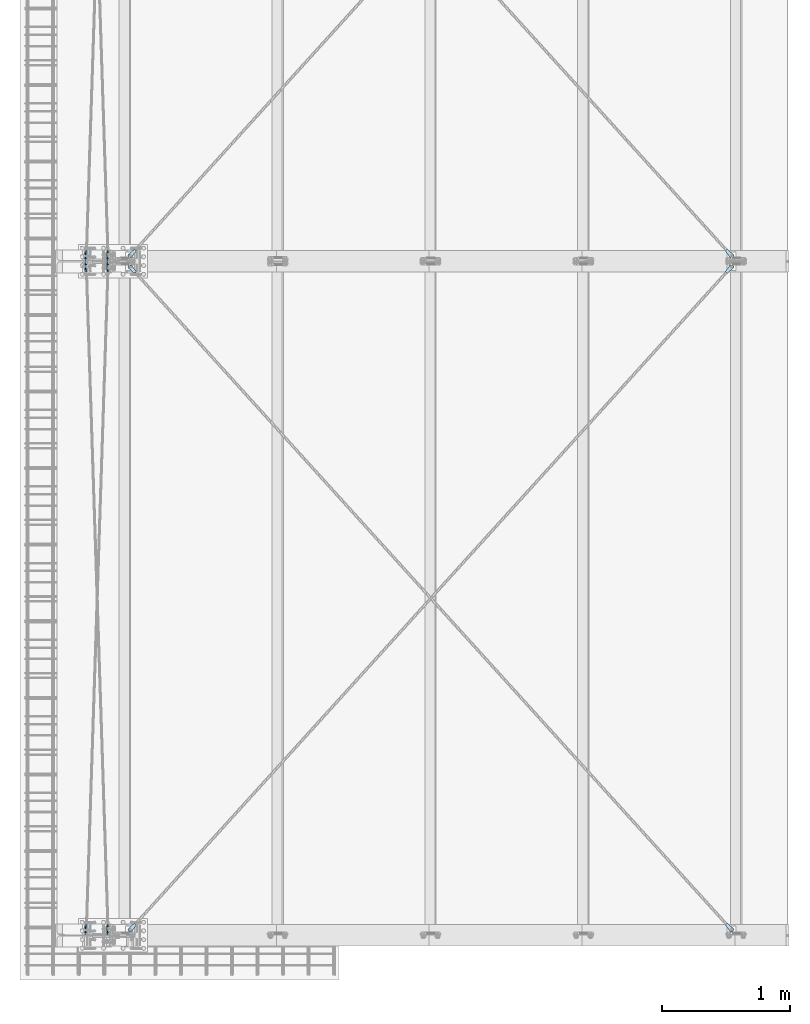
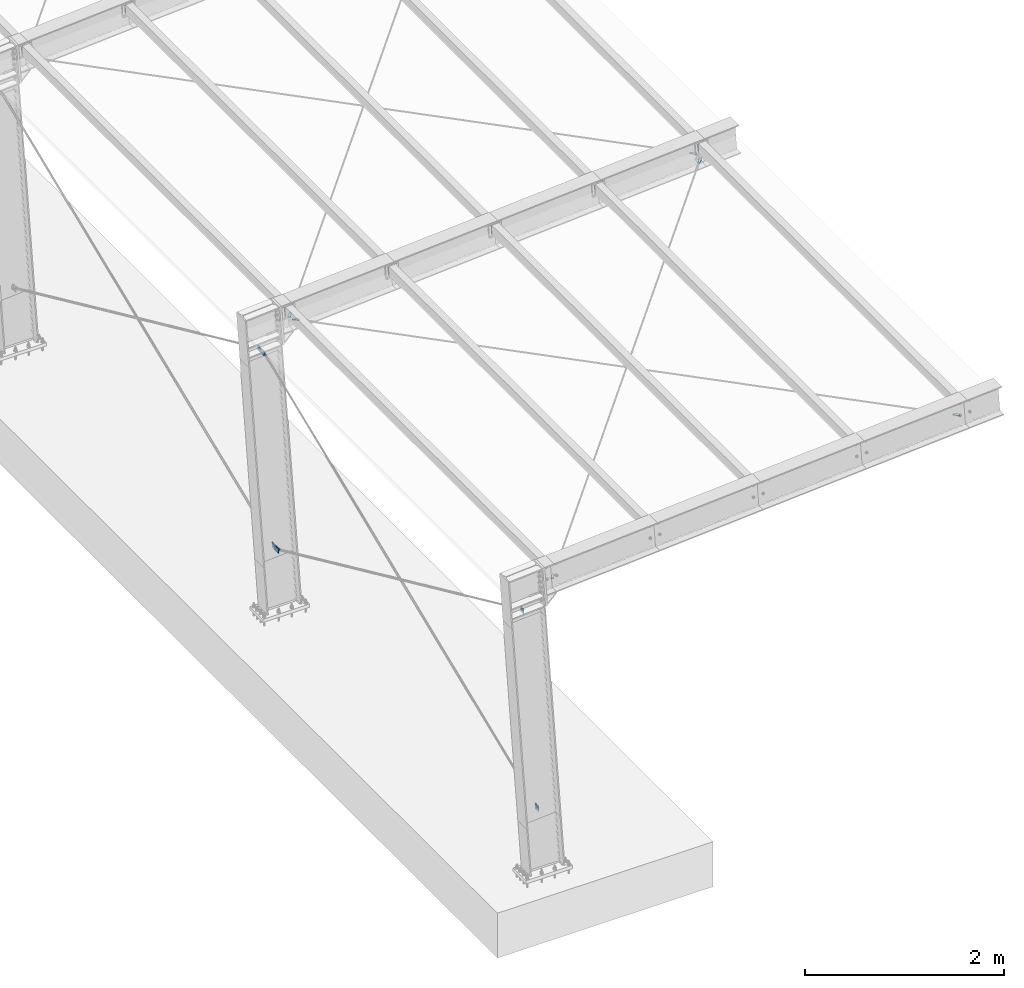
# One storey, part 6 of 72: 18 plates.
"""IFC4 building model written with IfcOpenShell, lengths in metres."""

from ifc_helpers import new_model, si_unit, frame, origin_with_axes, place, context, project, spatial, polyline, outline, extrude, type_object, element, save


model = new_model("IFC4")

# Units and contexts
model_context = context("Model", 3, precision=1e-05, world=origin_with_axes())
ifc_project = project(units=[si_unit("LENGTHUNIT", "METRE"), si_unit("AREAUNIT", "SQUARE_METRE"), si_unit("VOLUMEUNIT", "CUBIC_METRE"), si_unit("MASSUNIT", "GRAM", prefix="KILO"), si_unit("TIMEUNIT", "SECOND"), si_unit("PLANEANGLEUNIT", "RADIAN"), si_unit("SOLIDANGLEUNIT", "STERADIAN"), si_unit("THERMODYNAMICTEMPERATUREUNIT", "DEGREE_CELSIUS")], contexts=[model_context])

# Site, building, storey
placement_1 = place(None, origin_with_axes())
site = spatial("IfcSite", under=ifc_project, at=placement_1, Name="Italia", CompositionType="ELEMENT")
building = spatial("IfcBuilding", under=site, at=placement_1, Name="Pensilina", CompositionType="ELEMENT")
storey = spatial("IfcBuildingStorey", under=building, at=placement_1, Name="Storey 0", CompositionType="ELEMENT", Elevation=0.0)

# Plates
plate_type_1 = type_object("IfcPlateType", Name="Collegamento -196_-202", PredefinedType="SHEET")
placement_2 = place(placement_1, origin_with_axes())
plate_1_placement = place(placement_2, origin_with_axes())
element("IfcPlate", 1, at=plate_1_placement, inside=storey, type_object=plate_type_1, Name="Collegamento -196_-202", context=model_context, shape_type="SweptSolid", body=[
    extrude(outline(polyline([(0.0, 0.0, 0.0), (0.0411715, -0.011677, 0.0), (0.0456573, -0.0138451, 0.0), (0.0491357, -0.0174121, 0.0), (0.0511904, -0.0219509, 0.0), (0.0515754, -0.0269183, 0.0), (0.0502446, -0.0317195, 0.0), (0.0494246, -0.0334422, 0.0), (0.0465374, -0.0375026, 0.0), (0.0424393, -0.040336, 0.0), (0.0376209, -0.0416033, 0.0), (0.0326591, -0.0411528, 0.0), (0.0281477, -0.0390384, 0.0), (-0.00687659, -0.0144469, 0.0), (0.0, 0.0, 0.0)])), frame((0.892353, 0.0757243, 0.85085), z_axis=(-0.99946516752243, -0.032700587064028, 0.0), x_axis=(0.032700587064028, -0.99946516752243, 0.0)), (0.0, 0.0, 1.0), 0.008),
])
plate_type_2 = type_object("IfcPlateType", Name="Collegamento -196_-202", PredefinedType="SHEET")
plate_2_placement = place(placement_2, origin_with_axes())
element("IfcPlate", 2, at=plate_2_placement, inside=storey, type_object=plate_type_2, Name="Collegamento -196_-202", context=model_context, shape_type="SweptSolid", body=[
    extrude(outline(polyline([(0.0, 0.0, 0.0), (-0.062, 0.0, 0.0), (-0.062, -0.062, 0.0), (0.0, -0.062, 0.0), (0.0, 0.0, 0.0)])), frame((0.876667, 0.0658744, 0.854037), z_axis=(0.99946516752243, 0.032701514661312, 0.0), x_axis=(-0.032701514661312, 0.99946516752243, 0.0)), (0.0, 0.0, 1.0), 0.008),
])
plate_type_3 = type_object("IfcPlateType", Name="Collegamento -197_-201", PredefinedType="SHEET")
plate_3_placement = place(placement_2, origin_with_axes())
element("IfcPlate", 3, at=plate_3_placement, inside=storey, type_object=plate_type_3, Name="Collegamento -197_-201", context=model_context, shape_type="SweptSolid", body=[
    extrude(outline(polyline([(0.0, 0.0, 0.0), (0.0411716, -0.011677, 0.0), (0.0456572, -0.0138451, 0.0), (0.0491357, -0.0174121, 0.0), (0.0511904, -0.0219509, 0.0), (0.0515757, -0.0269182, 0.0), (0.0502448, -0.0317194, 0.0), (0.0494246, -0.0334422, 0.0), (0.0465374, -0.0375025, 0.0), (0.042439, -0.040336, 0.0), (0.037621, -0.0416033, 0.0), (0.0326591, -0.0411528, 0.0), (0.0281477, -0.0390384, 0.0), (-0.00687647, -0.0144469, 0.0), (0.0, 0.0, 0.0)])), frame((0.884357, 5.20454, 0.850851), z_axis=(0.999466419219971, -0.032663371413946, 0.0), x_axis=(0.032663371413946, 0.999466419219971, 0.0)), (0.0, 0.0, 1.0), 0.00799999),
])
plate_type_4 = type_object("IfcPlateType", Name="Collegamento -197_-201", PredefinedType="SHEET")
plate_4_placement = place(placement_2, origin_with_axes())
element("IfcPlate", 4, at=plate_4_placement, inside=storey, type_object=plate_type_4, Name="Collegamento -197_-201", context=model_context, shape_type="SweptSolid", body=[
    extrude(outline(polyline([(0.0, 0.0, 0.0), (0.0619998, 3.57628e-07, 0.0), (0.0619998, -0.0619998, 0.0), (4.76837e-07, -0.0620001, 0.0), (0.0, 0.0, 0.0)])), frame((0.876667, 5.21413, 0.854037), z_axis=(0.999466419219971, -0.032663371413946, 0.0), x_axis=(0.032663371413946, 0.999466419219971, 0.0)), (0.0, 0.0, 1.0), 0.00799999),
])
plate_type_5 = type_object("IfcPlateType", Name="Collegamento -197_-203", PredefinedType="SHEET")
plate_5_placement = place(placement_2, origin_with_axes())
element("IfcPlate", 5, at=plate_5_placement, inside=storey, type_object=plate_type_5, Name="Collegamento -197_-203", context=model_context, shape_type="SweptSolid", body=[
    extrude(outline(polyline([(0.0, 0.0, 0.0), (0.0411716, -0.011677, 0.0), (0.0456572, -0.0138451, 0.0), (0.0491357, -0.0174121, 0.0), (0.0511904, -0.0219509, 0.0), (0.0515757, -0.0269182, 0.0), (0.0502443, -0.0317194, 0.0), (0.0494246, -0.0334421, 0.0), (0.0465374, -0.0375025, 0.0), (0.042439, -0.040336, 0.0), (0.037621, -0.0416033, 0.0), (0.0326591, -0.0411528, 0.0), (0.0281477, -0.0390384, 0.0), (-0.00687647, -0.0144469, 0.0), (0.0, 0.0, 0.0)])), frame((0.892353, 5.35572, 0.85085), z_axis=(-0.999464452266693, -0.032722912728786, 0.0), x_axis=(0.032722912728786, -0.999464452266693, 0.0)), (0.0, 0.0, 1.0), 0.00800001),
])
plate_type_6 = type_object("IfcPlateType", Name="Collegamento -197_-203", PredefinedType="SHEET")
plate_6_placement = place(placement_2, origin_with_axes())
element("IfcPlate", 6, at=plate_6_placement, inside=storey, type_object=plate_type_6, Name="Collegamento -197_-203", context=model_context, shape_type="SweptSolid", body=[
    extrude(outline(polyline([(0.0, 0.0, 0.0), (-0.0620003, 0.0, 0.0), (-0.0620012, -0.062, 0.0), (-9.53674e-07, -0.0620001, 0.0), (0.0, 0.0, 0.0)])), frame((0.876667, 5.34587, 0.854037), z_axis=(0.999464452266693, 0.032723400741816, 0.0), x_axis=(-0.032723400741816, 0.999464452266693, 0.0)), (0.0, 0.0, 1.0), 0.00799989),
])
plate_type_7 = type_object("IfcPlateType", Name="Collegamento -201_-197", PredefinedType="SHEET")
plate_7_placement = place(placement_2, origin_with_axes())
element("IfcPlate", 7, at=plate_7_placement, inside=storey, type_object=plate_type_7, Name="Collegamento -201_-197", context=model_context, shape_type="SweptSolid", body=[
    extrude(outline(polyline([(0.0, 0.0, 0.0), (0.0350243, 0.0245914, 0.0), (0.0395357, 0.0267057, 0.0), (0.0444975, 0.0271564, 0.0), (0.0493159, 0.0258889, 0.0), (0.053414, 0.0230556, 0.0), (0.0563012, 0.0189953, 0.0), (0.0571212, 0.0172725, 0.0), (0.058452, 0.0124712, 0.0), (0.058067, 0.00750399, 0.0), (0.0560123, 0.00296497, 0.0), (0.0525339, -0.000602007, 0.0), (0.0480481, -0.00276995, 0.0), (0.00687657, -0.014447, 0.0), (0.0, 0.0, 0.0)])), frame((0.72477, 0.0823356, 3.29015), z_axis=(-0.999465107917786, 0.032702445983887, 0.0), x_axis=(-0.032702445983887, -0.999465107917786, 0.0)), (0.0, 0.0, 1.0), 0.008),
])
plate_type_8 = type_object("IfcPlateType", Name="Collegamento -201_-197", PredefinedType="SHEET")
plate_8_placement = place(placement_2, origin_with_axes())
element("IfcPlate", 8, at=plate_8_placement, inside=storey, type_object=plate_type_8, Name="Collegamento -201_-197", context=model_context, shape_type="SweptSolid", body=[
    extrude(outline(polyline([(0.0, 0.0, 0.0), (-0.0620001, 2.38419e-07, 0.0), (-0.0620001, -0.062, 0.0), (0.0, -0.062, 0.0), (0.0, 0.0, 0.0)])), frame((0.708248, 0.0666593, 3.33351), z_axis=(0.99946516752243, -0.032700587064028, 0.0), x_axis=(0.032700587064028, 0.99946516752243, 0.0)), (0.0, 0.0, 1.0), 0.008),
])
plate_type_9 = type_object("IfcPlateType", Name="Collegamento -202_-196", PredefinedType="SHEET")
plate_9_placement = place(placement_2, origin_with_axes())
element("IfcPlate", 9, at=plate_9_placement, inside=storey, type_object=plate_type_9, Name="Collegamento -202_-196", context=model_context, shape_type="SweptSolid", body=[
    extrude(outline(polyline([(0.0, 0.0, 0.0), (0.0350242, 0.0245914, 0.0), (0.0395355, 0.026706, 0.0), (0.0444975, 0.0271564, 0.0), (0.0493155, 0.0258892, 0.0), (0.0534139, 0.0230558, 0.0), (0.0563011, 0.0189953, 0.0), (0.0571213, 0.0172727, 0.0), (0.0584521, 0.0124714, 0.0), (0.0580668, 0.00750399, 0.0), (0.0560122, 0.00296521, 0.0), (0.0525336, -0.000601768, 0.0), (0.048048, -0.00276995, 0.0), (0.00687647, -0.014447, 0.0), (0.0, 0.0, 0.0)])), frame((0.716774, 5.1974, 3.29015), z_axis=(0.999466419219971, 0.032663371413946, 0.0), x_axis=(-0.032663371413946, 0.999466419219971, 0.0)), (0.0, 0.0, 1.0), 0.00799999),
])
plate_type_10 = type_object("IfcPlateType", Name="Collegamento -202_-196", PredefinedType="SHEET")
plate_10_placement = place(placement_2, origin_with_axes())
element("IfcPlate", 10, at=plate_10_placement, inside=storey, type_object=plate_type_10, Name="Collegamento -202_-196", context=model_context, shape_type="SweptSolid", body=[
    extrude(outline(polyline([(0.0, 0.0, 0.0), (0.0619998, -2.38419e-07, 0.0), (0.0619998, -0.062, 0.0), (0.0, -0.062, 0.0), (0.0, 0.0, 0.0)])), frame((0.708248, 5.21334, 3.33351), z_axis=(0.999468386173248, 0.032603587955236, 0.0), x_axis=(-0.032603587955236, 0.999468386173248, 0.0)), (0.0, 0.0, 1.0), 0.00800004),
])
plate_type_11 = type_object("IfcPlateType", Name="Collegamento -202_-198", PredefinedType="SHEET")
plate_11_placement = place(placement_2, origin_with_axes())
element("IfcPlate", 11, at=plate_11_placement, inside=storey, type_object=plate_type_11, Name="Collegamento -202_-198", context=model_context, shape_type="SweptSolid", body=[
    extrude(outline(polyline([(0.0, 0.0, 0.0), (0.0350242, 0.0245914, 0.0), (0.0395355, 0.026706, 0.0), (0.0444975, 0.0271564, 0.0), (0.0493159, 0.0258892, 0.0), (0.0534143, 0.0230556, 0.0), (0.0563011, 0.0189953, 0.0), (0.0571213, 0.0172725, 0.0), (0.0584517, 0.0124714, 0.0), (0.0580668, 0.00750399, 0.0), (0.0560126, 0.00296521, 0.0), (0.0525341, -0.000601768, 0.0), (0.0480485, -0.00276995, 0.0), (0.00687647, -0.014447, 0.0), (0.0, 0.0, 0.0)])), frame((0.72477, 5.36234, 3.29015), z_axis=(-0.999466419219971, 0.032663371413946, 0.0), x_axis=(-0.032663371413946, -0.999466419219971, 0.0)), (0.0, 0.0, 1.0), 0.00799999),
])
plate_type_12 = type_object("IfcPlateType", Name="Collegamento -202_-198", PredefinedType="SHEET")
plate_12_placement = place(placement_2, origin_with_axes())
element("IfcPlate", 12, at=plate_12_placement, inside=storey, type_object=plate_type_12, Name="Collegamento -202_-198", context=model_context, shape_type="SweptSolid", body=[
    extrude(outline(polyline([(0.0, 0.0, 0.0), (-0.0620008, 2.38419e-07, 0.0), (-0.0620008, -0.0619996, 0.0), (0.0, -0.062, 0.0), (0.0, 0.0, 0.0)])), frame((0.708248, 5.34666, 3.33351), z_axis=(0.999464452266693, -0.032723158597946, 0.0), x_axis=(0.032723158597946, 0.999464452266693, 0.0)), (0.0, 0.0, 1.0), 0.00799995),
])
plate_type_13 = type_object("IfcPlateType", Name="Collegamento 0201_0602", PredefinedType="SHEET")
plate_13_placement = place(placement_2, origin_with_axes())
element("IfcPlate", 13, at=plate_13_placement, inside=storey, type_object=plate_type_13, Name="Collegamento 0201_0602", context=model_context, shape_type="SweptSolid", body=[
    extrude(outline(polyline([(0.0, 0.0, 0.0), (0.00629729, -0.0590731, 0.0), (0.00600183, -0.0638713, 0.0), (0.00414348, -0.0683049, 0.0), (0.000929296, -0.0718797, 0.0), (-0.00328255, -0.0741974, 0.0), (-0.00802243, -0.0749995, 0.0), (-0.0119871, -0.0749993, 0.0), (-0.0167269, -0.0741965, 0.0), (-0.0209384, -0.0718783, 0.0), (-0.0241522, -0.0683031, 0.0), (-0.02601, -0.0638693, 0.0), (-0.0263048, -0.059071, 0.0), (-0.0199999, 1.3113e-06, 0.0), (0.0, 0.0, 0.0)])), frame((1.11149, 0.0818641, 3.56709), z_axis=(-0.030970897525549, -0.034152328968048, 0.998936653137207), x_axis=(0.740767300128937, -0.671761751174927, 0.0)), (0.0, 0.0, 1.0), 0.0099999),
])
plate_type_14 = type_object("IfcPlateType", Name="Collegamento 0202_0601", PredefinedType="SHEET")
plate_14_placement = place(placement_2, origin_with_axes())
element("IfcPlate", 14, at=plate_14_placement, inside=storey, type_object=plate_type_14, Name="Collegamento 0202_0601", context=model_context, shape_type="SweptSolid", body=[
    extrude(outline(polyline([(0.0, 0.0, 0.0), (0.00628471, -0.0590744, 0.0), (0.00598812, -0.0638726, 0.0), (0.00412893, -0.0683057, 0.0), (0.00091362, -0.0718799, 0.0), (-0.00329876, -0.0741968, 0.0), (-0.00803852, -0.0749979, 0.0), (-0.0120029, -0.0749965, 0.0), (-0.0167427, -0.0741928, 0.0), (-0.0209541, -0.0718737, 0.0), (-0.0241671, -0.0682981, 0.0), (-0.0260234, -0.0638635, 0.0), (-0.0263176, -0.0590653, 0.0), (-0.02, 5.72205e-06, 0.0), (0.0, 0.0, 0.0)])), frame((1.09668, 5.1847, 3.58711), z_axis=(-0.030982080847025, 0.034141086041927, 0.998936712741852), x_axis=(-0.740536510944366, -0.672016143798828, 0.0)), (0.0, 0.0, 1.0), 0.0100001),
])
plate_type_15 = type_object("IfcPlateType", Name="Collegamento 0202_0603", PredefinedType="SHEET")
plate_15_placement = place(placement_2, origin_with_axes())
element("IfcPlate", 15, at=plate_15_placement, inside=storey, type_object=plate_type_15, Name="Collegamento 0202_0603", context=model_context, shape_type="SweptSolid", body=[
    extrude(outline(polyline([(0.0, 0.0, 0.0), (0.00631738, -0.0590711, 0.0), (0.00602365, -0.0638695, 0.0), (0.0041666, -0.0683036, 0.0), (0.000953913, -0.0718799, 0.0), (-0.00325704, -0.0741987, 0.0), (-0.0079968, -0.0750022, 0.0), (-0.0119615, -0.0750031, 0.0), (-0.0167017, -0.0742021, 0.0), (-0.0209138, -0.0718856, 0.0), (-0.0241287, -0.0683117, 0.0), (-0.0259881, -0.0638781, 0.0), (-0.0262845, -0.0590801, 0.0), (-0.0200002, -5.72205e-06, 0.0), (0.0, 0.0, 0.0)])), frame((1.11149, 5.36186, 3.56709), z_axis=(-0.030982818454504, -0.034141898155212, 0.998936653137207), x_axis=(0.740536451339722, -0.672016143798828, 0.0)), (0.0, 0.0, 1.0), 0.0099999),
])
plate_type_16 = type_object("IfcPlateType", Name="Collegamento 0601_0202", PredefinedType="SHEET")
plate_16_placement = place(placement_2, origin_with_axes())
element("IfcPlate", 16, at=plate_16_placement, inside=storey, type_object=plate_type_16, Name="Collegamento 0601_0202", context=model_context, shape_type="SweptSolid", body=[
    extrude(outline(polyline([(0.0, 0.0, 0.0), (-0.0062747, 0.0590754, 0.0), (-0.00597715, 0.0638733, 0.0), (-0.00411701, 0.0683064, 0.0), (-0.000901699, 0.0718803, 0.0), (0.00331116, 0.0741959, 0.0), (0.0080514, 0.0749965, 0.0), (0.0120158, 0.0749946, 0.0), (0.0167556, 0.0741901, 0.0), (0.0209661, 0.0718703, 0.0), (0.0241785, 0.0682936, 0.0), (0.0260348, 0.0638595, 0.0), (0.0263276, 0.0590611, 0.0), (0.02, -8.82149e-06, 0.0), (0.0, 0.0, 0.0)])), frame((5.72476, 0.081864, 3.91508), z_axis=(0.030947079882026, -0.03415235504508, -0.998937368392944), x_axis=(0.741024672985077, 0.671477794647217, 0.0)), (0.0, 0.0, 1.0), 0.00999989),
])
plate_type_17 = type_object("IfcPlateType", Name="Collegamento 0602_0201", PredefinedType="SHEET")
plate_17_placement = place(placement_2, origin_with_axes())
element("IfcPlate", 17, at=plate_17_placement, inside=storey, type_object=plate_type_17, Name="Collegamento 0602_0201", context=model_context, shape_type="SweptSolid", body=[
    extrude(outline(polyline([(0.0, 0.0, 0.0), (-0.00627321, 0.0590754, 0.0), (-0.00597584, 0.0638738, 0.0), (-0.00411546, 0.0683064, 0.0), (-0.00090009, 0.0718799, 0.0), (0.00331271, 0.0741959, 0.0), (0.00805271, 0.074996, 0.0), (0.0120175, 0.0749946, 0.0), (0.016757, 0.0741892, 0.0), (0.0209674, 0.0718694, 0.0), (0.0241798, 0.0682931, 0.0), (0.0260361, 0.0638585, 0.0), (0.0263288, 0.0590601, 0.0), (0.02, -9.53674e-06, 0.0), (0.0, 0.0, 0.0)])), frame((5.73957, 5.1847, 3.89506), z_axis=(0.030993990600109, 0.034141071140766, -0.998936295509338), x_axis=(-0.740407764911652, 0.672157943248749, 0.0)), (0.0, 0.0, 1.0), 0.0100001),
])
plate_type_18 = type_object("IfcPlateType", Name="Collegamento 0602_0203", PredefinedType="SHEET")
plate_18_placement = place(placement_2, origin_with_axes())
element("IfcPlate", 18, at=plate_18_placement, inside=storey, type_object=plate_type_18, Name="Collegamento 0602_0203", context=model_context, shape_type="SweptSolid", body=[
    extrude(outline(polyline([(0.0, 0.0, 0.0), (-0.00624228, 0.0590789, 0.0), (-0.00594282, 0.0638767, 0.0), (-0.00408077, 0.0683087, 0.0), (-0.000862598, 0.0718807, 0.0), (0.00335121, 0.0741942, 0.0), (0.00809193, 0.0749918, 0.0), (0.0120564, 0.0749882, 0.0), (0.0167956, 0.0741809, 0.0), (0.0210047, 0.071859, 0.0), (0.0242152, 0.0682806, 0.0), (0.0260692, 0.0638452, 0.0), (0.0263591, 0.0590467, 0.0), (0.02, -1.95913e-05, 0.0), (0.0, 0.0, 0.0)])), frame((5.72476, 5.36186, 3.91508), z_axis=(0.030947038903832, -0.034189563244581, -0.998936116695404), x_axis=(0.74138879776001, 0.671075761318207, 0.0)), (0.0, 0.0, 1.0), 0.0099999),
])

save(model, "model.ifc")
